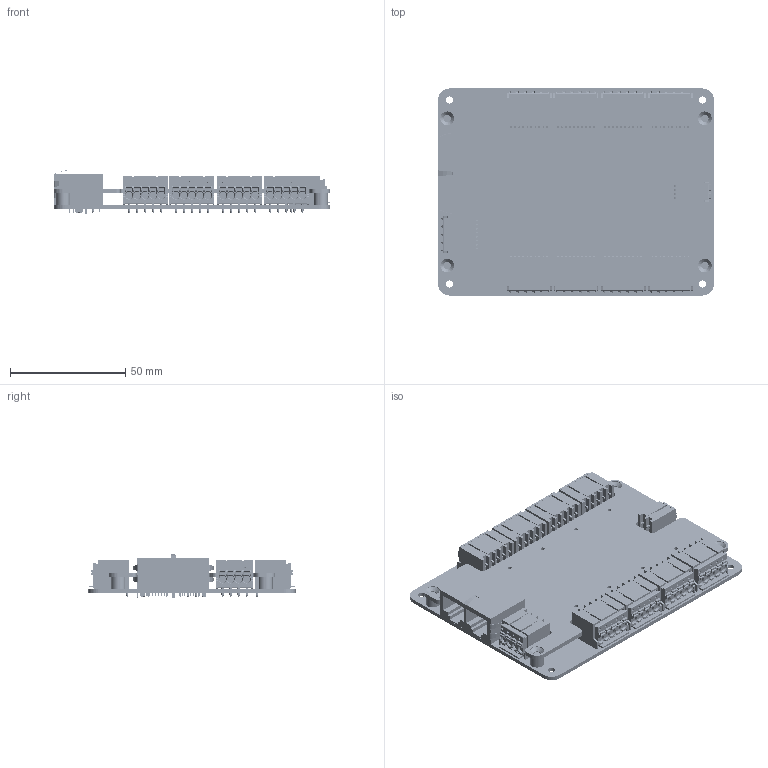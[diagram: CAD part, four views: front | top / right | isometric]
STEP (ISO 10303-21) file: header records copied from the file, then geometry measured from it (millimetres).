
FILE_DESCRIPTION(/* description */ ('PCB Sensor IO'),/* implementation_level */ '2;1');
FILE_NAME(/* name */ '121273 Simplified.step',/* time_stamp */ '2025-10-09T10:29:19+02:00',/* author */ (''),/* organization */ (''),/* preprocessor_version */ 'ST-DEVELOPER v20.1',/* originating_system */ 'Autodesk Translation Framework v14.17.0.0',/* authorisation */ '');
FILE_SCHEMA (('AUTOMOTIVE_DESIGN { 1 0 10303 214 3 1 1 }'));
Products named in the file (24): 121273 Simplified; 121272 v2; Board; 1-copper; 16-copper; 1-soldermask; 16-soldermask; Packages; SPACER_SOLDER; 9774050360R v1; Body; Lugs; P-2091-1425; 2091-1425 v1; P-2091-1422; 2091-1422 v1; J8064D628ANL_2; J8064D628ANL_3D v1; P-2091-1424; 2091-1424 v1; 112073; 117390; 114568; Open CASCADE STEP translator 7.5 1
Assembly tree (40 placements, depth 6):
  121273 Simplified
    121272 v2
      Board
      1-copper
      16-copper
      1-soldermask
      16-soldermask
      Packages
        SPACER_SOLDER  x4
          9774050360R v1
            Body
            Lugs
        P-2091-1425  x8
          2091-1425 v1
        P-2091-1422
          2091-1422 v1
        J8064D628ANL_2
          J8064D628ANL_3D v1
        P-2091-1424
          2091-1424 v1
    112073
    117390  x8
    114568
    Open CASCADE STEP translator 7.5 1
Bounding box: 120 x 90 x 19.43 mm (x, y, z)
Volume: 67724 mm3; surface area: 118035.6 mm2
Topology: 33 solids, 33 shells, 7721 faces, 21487 edges, 14092 vertices
Faces by surface type: plane 4929, cylinder 2558, cone 234
Full cylindrical faces by diameter (mm): 0.508 x736, 0.813 x22, 0.889 x32, 1 x92, 1.016 x32, 1.2 x92, 1.27 x4, 1.575 x6, 1.7 x9, 3.13 x4, 3.2 x20, 3.251 x4, 4.2 x4, 4.4 x8, 6 x8
Entity records: 100358 total; most frequent: DIRECTION 17060, CARTESIAN_POINT 16685, ORIENTED_EDGE 16380, EDGE_CURVE 8190, AXIS2_PLACEMENT_3D 5931, VERTEX_POINT 5400, LINE 5198, VECTOR 5198
